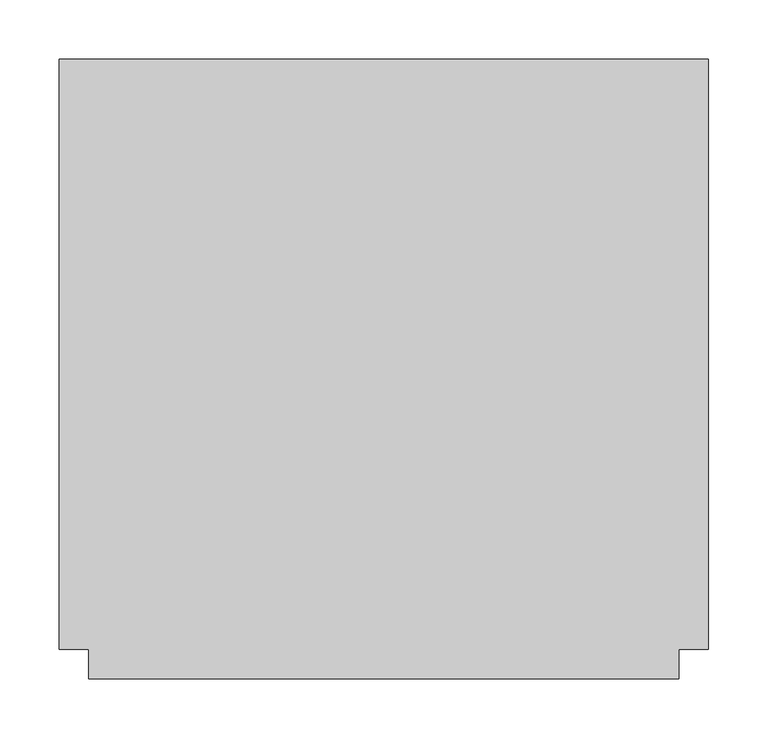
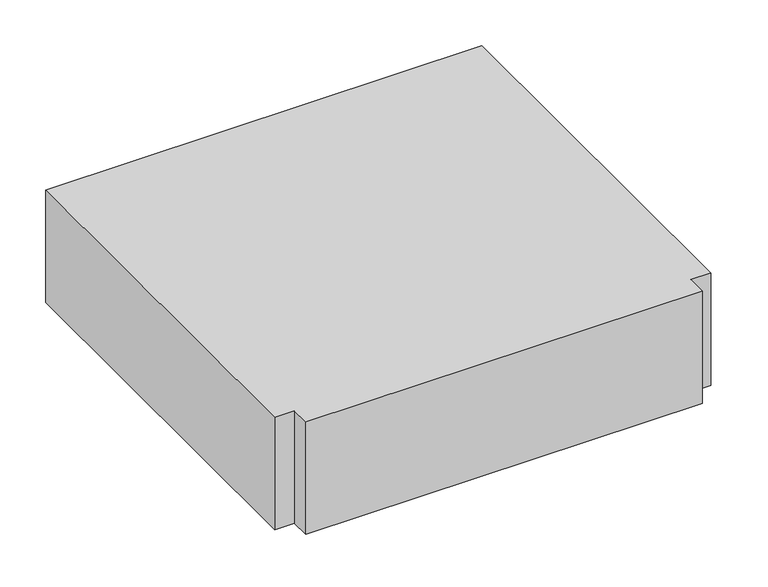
"""IFC4 building model written with IfcOpenShell, lengths in millimetres: duct fitting geometry, M_Te rectangular : Estándar."""

from ifc_helpers import new_model, si_unit, frame, origin, place, context, project, spatial, polyline, outline, extrude, source, transform, mapped, element, save


def duct_fitting_c6a334d1(model_context):
    return source(origin(), model_context, "Body", "SweptSolid", [
        extrude(outline(polyline([(-275.0, -250.0), (-275.0, 250.0), (275.0, 250.0), (275.0, -250.0), (250.0, -250.0), (250.0, -275.0), (-250.0, -275.0), (-250.0, -250.0), (-275.0, -250.0)])), frame((0.0, 0.0, -75.0), z_axis=(0.0, 0.0, 1.0), x_axis=(1.0, 0.0, 0.0)), (0.0, 0.0, 1.0), 150.0),
    ])


if __name__ == "__main__":
    model = new_model("IFC4")
    model_context = context("Model", 3, world=origin())
    ifc_project = project(units=[si_unit("LENGTHUNIT", "METRE", prefix="MILLI")], contexts=[model_context])
    site = spatial("IfcSite", under=ifc_project)
    building = spatial("IfcBuilding", under=site)
    placement = place(None, origin())
    duct_fitting_shape = duct_fitting_c6a334d1(model_context)
    element("IfcDuctFitting", 1, ObjectType="M_Te rectangular : Estándar", at=placement, inside=building, context=model_context, shape_type="MappedRepresentation", body=[
        mapped(duct_fitting_shape, transform((0.0, 0.0, 0.0), x_axis=(1.0, 0.0, 0.0), y_axis=(0.0, 1.0, 0.0), z_axis=(0.0, 0.0, 1.0))),
    ])
    save(model, "model.ifc")
